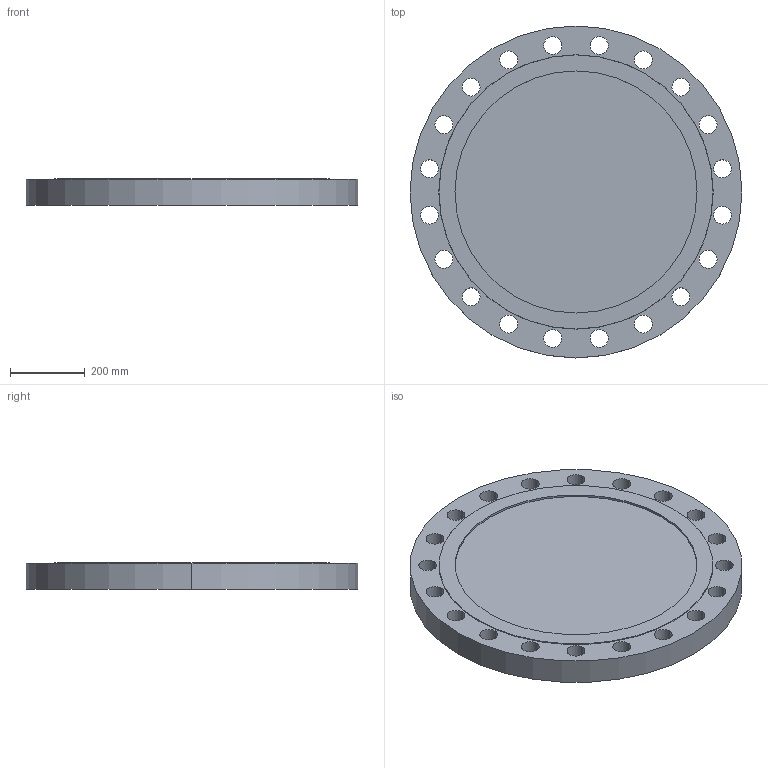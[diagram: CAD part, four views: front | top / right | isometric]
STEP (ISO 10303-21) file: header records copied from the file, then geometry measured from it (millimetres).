
FILE_DESCRIPTION (( 'STEP AP214' ), '1' );
FILE_NAME ('PN40 DN600 Type 05 - Type G Face.STEP', '2018-12-28T23:13:17', ( '' ), ( '' ), 'SwSTEP 2.0', 'SolidWorks 2019', '' );
FILE_SCHEMA (( 'AUTOMOTIVE_DESIGN' ));
Length unit declared in the file: millimetre
Products named in the file (1): PN40 DN600 Type 05 - Type G Face
Bounding box: 890 x 890 x 72 mm (x, y, z)
Volume: 40044532 mm3; surface area: 1593772.6 mm2
Topology: 1 solids, 1 shells, 50 faces, 138 edges, 92 vertices
Faces by surface type: cylinder 44, plane 4, cone 2
Entity records: 1768 total; most frequent: DIRECTION 332, CARTESIAN_POINT 281, ORIENTED_EDGE 276, AXIS2_PLACEMENT_3D 143, EDGE_CURVE 138, CIRCLE 92, EDGE_LOOP 92, VERTEX_POINT 92
